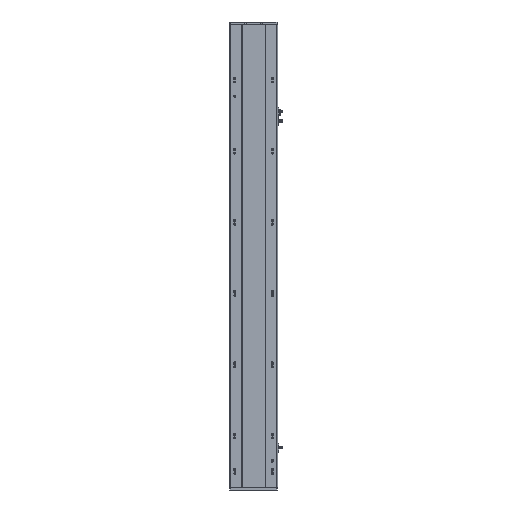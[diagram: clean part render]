
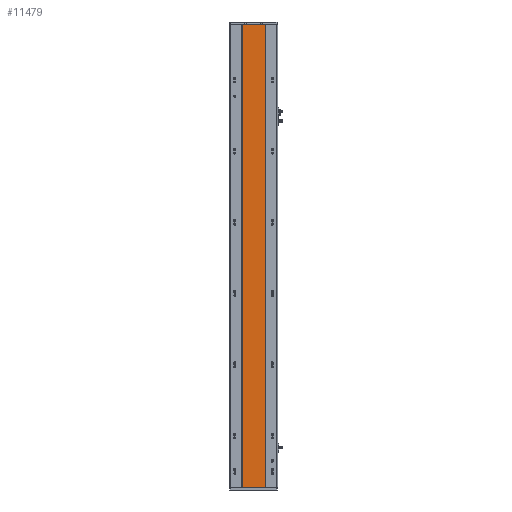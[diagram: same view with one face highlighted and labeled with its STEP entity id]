
A CAD part, front view. The second image highlights one B-rep face of the part: STEP entity #11479.
In plain terms, the highlighted planar face has unit normal (0, -1, 0).
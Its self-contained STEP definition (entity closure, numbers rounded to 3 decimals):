
#1701 = LINE ( 'NONE', #8022, #9999 ) ;
#2236 = VECTOR ( 'NONE', #6417, 1000. ) ;
#3013 = CARTESIAN_POINT ( 'NONE',  ( 2963.091, 228.884, 1303. ) ) ;
#4352 = DIRECTION ( 'NONE',  ( 1., 0., 0. ) ) ;
#4470 = VERTEX_POINT ( 'NONE', #17455 ) ;
#5063 = LINE ( 'NONE', #11408, #18376 ) ;
#5472 = CARTESIAN_POINT ( 'NONE',  ( 2995.466, 228.884, 0. ) ) ;
#5688 = ORIENTED_EDGE ( 'NONE', *, *, #11592, .F. ) ;
#5802 = VERTEX_POINT ( 'NONE', #14721 ) ;
#6188 = PLANE ( 'NONE',  #12343 ) ;
#6417 = DIRECTION ( 'NONE',  ( 1., 0., 0. ) ) ;
#6593 = EDGE_CURVE ( 'NONE', #5802, #7071, #17694, .T. ) ;
#7071 = VERTEX_POINT ( 'NONE', #5472 ) ;
#7337 = LINE ( 'NONE', #12125, #9468 ) ;
#8022 = CARTESIAN_POINT ( 'NONE',  ( 2930.715, 228.884, 1303. ) ) ;
#8428 = CARTESIAN_POINT ( 'NONE',  ( 2995.466, 228.884, 1303. ) ) ;
#9145 = ORIENTED_EDGE ( 'NONE', *, *, #14612, .F. ) ;
#9342 = DIRECTION ( 'NONE',  ( 0., 0., 1. ) ) ;
#9433 = ORIENTED_EDGE ( 'NONE', *, *, #6593, .T. ) ;
#9468 = VECTOR ( 'NONE', #4352, 1000. ) ;
#9999 = VECTOR ( 'NONE', #12804, 1000. ) ;
#11408 = CARTESIAN_POINT ( 'NONE',  ( 2995.466, 228.884, 1303. ) ) ;
#11479 = ADVANCED_FACE ( 'NONE', ( #16929 ), #6188, .F. ) ;
#11592 = EDGE_CURVE ( 'NONE', #13718, #7071, #5063, .T. ) ;
#12125 = CARTESIAN_POINT ( 'NONE',  ( 2930.715, 228.884, 1303. ) ) ;
#12343 = AXIS2_PLACEMENT_3D ( 'NONE', #3013, #18929, #9342 ) ;
#12753 = DIRECTION ( 'NONE',  ( 0., 0., -1. ) ) ;
#12804 = DIRECTION ( 'NONE',  ( 0., 0., -1. ) ) ;
#13718 = VERTEX_POINT ( 'NONE', #8428 ) ;
#14238 = CARTESIAN_POINT ( 'NONE',  ( 2963.091, 228.884, 0. ) ) ;
#14612 = EDGE_CURVE ( 'NONE', #4470, #13718, #7337, .T. ) ;
#14721 = CARTESIAN_POINT ( 'NONE',  ( 2930.715, 228.884, 0. ) ) ;
#16929 = FACE_OUTER_BOUND ( 'NONE', #19194, .T. ) ;
#17455 = CARTESIAN_POINT ( 'NONE',  ( 2930.715, 228.884, 1303. ) ) ;
#17694 = LINE ( 'NONE', #14238, #2236 ) ;
#18376 = VECTOR ( 'NONE', #12753, 1000. ) ;
#18929 = DIRECTION ( 'NONE',  ( 0., 1., 0. ) ) ;
#19194 = EDGE_LOOP ( 'NONE', ( #9433, #5688, #9145, #20403 ) ) ;
#19467 = EDGE_CURVE ( 'NONE', #4470, #5802, #1701, .T. ) ;
#20403 = ORIENTED_EDGE ( 'NONE', *, *, #19467, .T. ) ;
